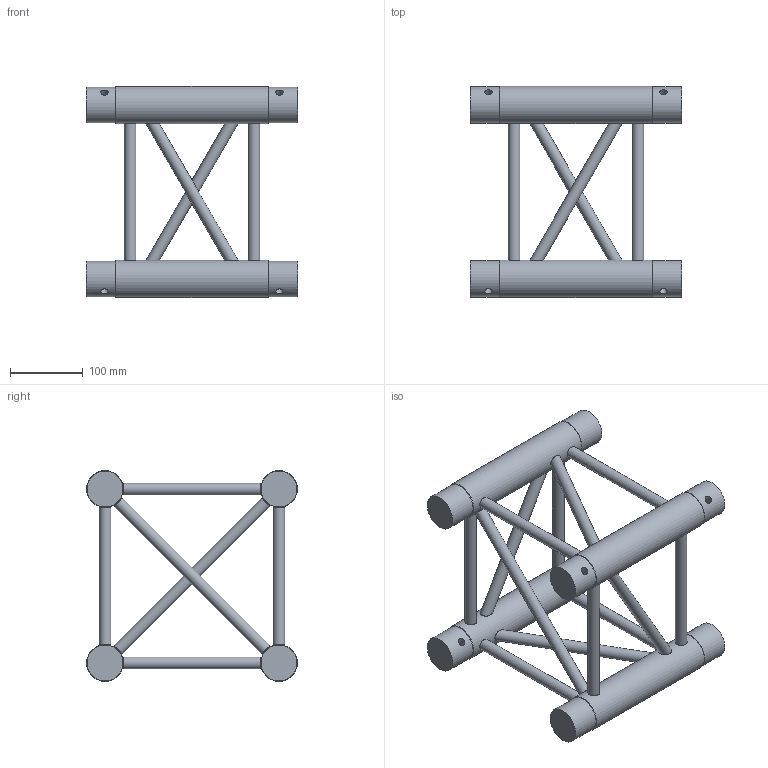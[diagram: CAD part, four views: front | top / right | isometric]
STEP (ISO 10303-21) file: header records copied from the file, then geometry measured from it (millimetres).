
FILE_DESCRIPTION(/* description */ (''),/* implementation_level */ '2;1');
FILE_NAME(/* name */ 'M:\Symbolen\STP\30-er truss\111080108.stp',/* time_stamp */ '2015-01-29T10:34:04+01:00',/* author */ ('Stephan'),/* organization */ (''),/* preprocessor_version */ 'ST-DEVELOPER v15.6',/* originating_system */ 'Autodesk Inventor 2015',/* authorisation */ '');
FILE_SCHEMA (('AUTOMOTIVE_DESIGN { 1 0 10303 214 3 1 1 }'));
Length unit declared in the file: millimetre
Products named in the file (1): 160023619
Bounding box: 290 x 289.98 x 289.98 mm (x, y, z)
Volume: 1874184.1 mm3; surface area: 389686.7 mm2
Topology: 6 solids, 18 shells, 124 faces, 244 edges, 152 vertices
Faces by surface type: plane 72, cylinder 44, cone 8
Full cylindrical faces by diameter (mm): 10 x8, 12 x2, 16 x14, 49.5 x8, 51 x4
Entity records: 3701 total; most frequent: CARTESIAN_POINT 1085, DIRECTION 466, ORIENTED_EDGE 416, EDGE_LOOP 216, AXIS2_PLACEMENT_3D 213, EDGE_CURVE 184, VERTEX_POINT 144, STYLED_ITEM 117
